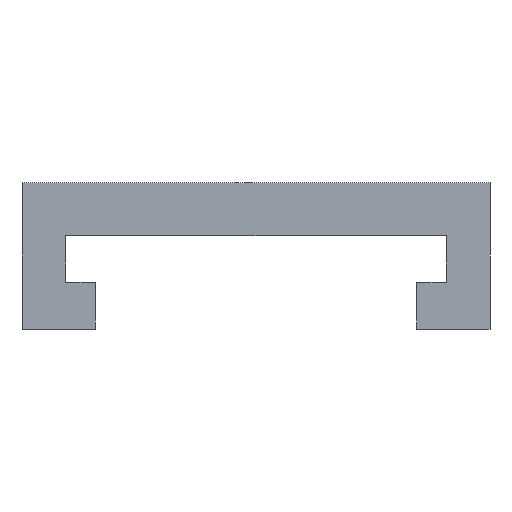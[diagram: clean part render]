
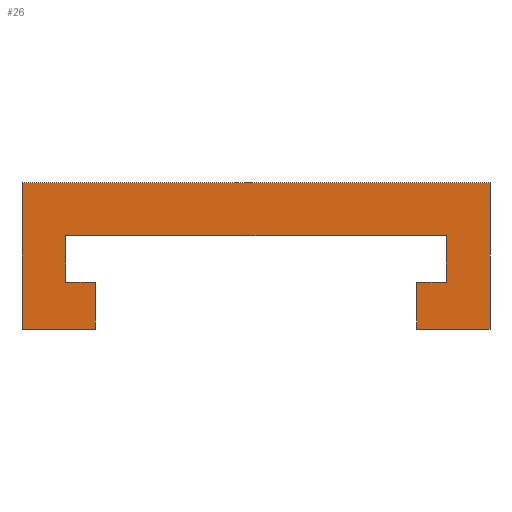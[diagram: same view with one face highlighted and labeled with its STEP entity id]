
A CAD part, front view. The second image highlights one B-rep face of the part: STEP entity #26.
In plain terms, the highlighted planar face has unit normal (0, -1, 0).
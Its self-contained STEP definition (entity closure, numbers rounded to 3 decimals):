
#2 = CARTESIAN_POINT ( 'NONE',  ( -32.5, 0., 3.5 ) ) ;
#7 = CARTESIAN_POINT ( 'NONE',  ( 40., 0., -12.5 ) ) ;
#13 = CARTESIAN_POINT ( 'NONE',  ( 27.5, 0., -4.5 ) ) ;
#19 = EDGE_LOOP ( 'NONE', ( #280, #189, #343, #109, #238, #394, #25, #435, #182, #262, #321, #138 ) ) ;
#22 = CARTESIAN_POINT ( 'NONE',  ( 40., 0., -12.5 ) ) ;
#25 = ORIENTED_EDGE ( 'NONE', *, *, #60, .F. ) ;
#26 = ADVANCED_FACE ( 'NONE', ( #444 ), #404, .F. ) ;
#30 = CARTESIAN_POINT ( 'NONE',  ( -27.5, 0., -4.5 ) ) ;
#33 = DIRECTION ( 'NONE',  ( 0., 0., 1. ) ) ;
#36 = LINE ( 'NONE', #181, #195 ) ;
#43 = CARTESIAN_POINT ( 'NONE',  ( 32.5, 0., -4.5 ) ) ;
#44 = LINE ( 'NONE', #230, #50 ) ;
#47 = DIRECTION ( 'NONE',  ( -1., 0., 0. ) ) ;
#50 = VECTOR ( 'NONE', #47, 1000. ) ;
#60 = EDGE_CURVE ( 'NONE', #184, #167, #327, .T. ) ;
#64 = DIRECTION ( 'NONE',  ( -1., 0., 0. ) ) ;
#68 = EDGE_CURVE ( 'NONE', #126, #368, #44, .T. ) ;
#69 = VERTEX_POINT ( 'NONE', #192 ) ;
#72 = CARTESIAN_POINT ( 'NONE',  ( -40., 0., -12.5 ) ) ;
#86 = DIRECTION ( 'NONE',  ( 0., 0., 1. ) ) ;
#96 = CARTESIAN_POINT ( 'NONE',  ( -40., 0., 12.5 ) ) ;
#102 = CARTESIAN_POINT ( 'NONE',  ( 40., 0., 12.5 ) ) ;
#103 = EDGE_CURVE ( 'NONE', #196, #430, #416, .T. ) ;
#104 = VECTOR ( 'NONE', #306, 1000. ) ;
#109 = ORIENTED_EDGE ( 'NONE', *, *, #214, .F. ) ;
#114 = VERTEX_POINT ( 'NONE', #173 ) ;
#119 = LINE ( 'NONE', #360, #356 ) ;
#126 = VERTEX_POINT ( 'NONE', #30 ) ;
#134 = VERTEX_POINT ( 'NONE', #102 ) ;
#138 = ORIENTED_EDGE ( 'NONE', *, *, #315, .T. ) ;
#150 = CARTESIAN_POINT ( 'NONE',  ( 32.5, 0., 3.5 ) ) ;
#152 = DIRECTION ( 'NONE',  ( 1., 0., 0. ) ) ;
#167 = VERTEX_POINT ( 'NONE', #253 ) ;
#171 = EDGE_CURVE ( 'NONE', #454, #430, #389, .T. ) ;
#172 = DIRECTION ( 'NONE',  ( 0., 0., -1. ) ) ;
#173 = CARTESIAN_POINT ( 'NONE',  ( -40., 0., 12.5 ) ) ;
#181 = CARTESIAN_POINT ( 'NONE',  ( -40., 0., -12.5 ) ) ;
#182 = ORIENTED_EDGE ( 'NONE', *, *, #68, .T. ) ;
#183 = CARTESIAN_POINT ( 'NONE',  ( -32.5, 0., 3.5 ) ) ;
#184 = VERTEX_POINT ( 'NONE', #410 ) ;
#188 = LINE ( 'NONE', #150, #393 ) ;
#189 = ORIENTED_EDGE ( 'NONE', *, *, #103, .T. ) ;
#192 = CARTESIAN_POINT ( 'NONE',  ( 32.5, 0., 3.5 ) ) ;
#195 = VECTOR ( 'NONE', #296, 1000. ) ;
#196 = VERTEX_POINT ( 'NONE', #13 ) ;
#214 = EDGE_CURVE ( 'NONE', #134, #454, #347, .T. ) ;
#217 = DIRECTION ( 'NONE',  ( 0., 0., -1. ) ) ;
#228 = LINE ( 'NONE', #183, #300 ) ;
#230 = CARTESIAN_POINT ( 'NONE',  ( -27.5, 0., -4.5 ) ) ;
#231 = CARTESIAN_POINT ( 'NONE',  ( 32.5, 0., -4.5 ) ) ;
#235 = LINE ( 'NONE', #96, #355 ) ;
#237 = CARTESIAN_POINT ( 'NONE',  ( 27.5, 0., -4.5 ) ) ;
#238 = ORIENTED_EDGE ( 'NONE', *, *, #370, .F. ) ;
#246 = VECTOR ( 'NONE', #440, 1000. ) ;
#247 = VERTEX_POINT ( 'NONE', #2 ) ;
#251 = EDGE_CURVE ( 'NONE', #247, #69, #228, .T. ) ;
#253 = CARTESIAN_POINT ( 'NONE',  ( -40., 0., -12.5 ) ) ;
#262 = ORIENTED_EDGE ( 'NONE', *, *, #328, .T. ) ;
#263 = CARTESIAN_POINT ( 'NONE',  ( -32.5, 0., -4.5 ) ) ;
#265 = VECTOR ( 'NONE', #172, 1000. ) ;
#268 = EDGE_CURVE ( 'NONE', #184, #126, #119, .T. ) ;
#271 = DIRECTION ( 'NONE',  ( 0., 0., 1. ) ) ;
#280 = ORIENTED_EDGE ( 'NONE', *, *, #412, .T. ) ;
#293 = VERTEX_POINT ( 'NONE', #43 ) ;
#296 = DIRECTION ( 'NONE',  ( 0., 0., 1. ) ) ;
#300 = VECTOR ( 'NONE', #152, 1000. ) ;
#302 = CARTESIAN_POINT ( 'NONE',  ( -40., 0., -12.5 ) ) ;
#306 = DIRECTION ( 'NONE',  ( -1., 0., 0. ) ) ;
#313 = VECTOR ( 'NONE', #86, 1000. ) ;
#315 = EDGE_CURVE ( 'NONE', #69, #293, #188, .T. ) ;
#320 = EDGE_CURVE ( 'NONE', #167, #114, #36, .T. ) ;
#321 = ORIENTED_EDGE ( 'NONE', *, *, #251, .T. ) ;
#327 = LINE ( 'NONE', #302, #246 ) ;
#328 = EDGE_CURVE ( 'NONE', #368, #247, #403, .T. ) ;
#333 = CARTESIAN_POINT ( 'NONE',  ( 27.5, 0., -12.5 ) ) ;
#340 = LINE ( 'NONE', #231, #104 ) ;
#341 = VECTOR ( 'NONE', #452, 1000. ) ;
#343 = ORIENTED_EDGE ( 'NONE', *, *, #171, .F. ) ;
#347 = LINE ( 'NONE', #22, #265 ) ;
#355 = VECTOR ( 'NONE', #406, 1000. ) ;
#356 = VECTOR ( 'NONE', #33, 1000. ) ;
#360 = CARTESIAN_POINT ( 'NONE',  ( -27.5, 0., -12.5 ) ) ;
#367 = CARTESIAN_POINT ( 'NONE',  ( -32.5, 0., -4.5 ) ) ;
#368 = VERTEX_POINT ( 'NONE', #263 ) ;
#370 = EDGE_CURVE ( 'NONE', #114, #134, #235, .T. ) ;
#389 = LINE ( 'NONE', #72, #438 ) ;
#393 = VECTOR ( 'NONE', #217, 1000. ) ;
#394 = ORIENTED_EDGE ( 'NONE', *, *, #320, .F. ) ;
#399 = DIRECTION ( 'NONE',  ( 0., 1., 0. ) ) ;
#403 = LINE ( 'NONE', #367, #313 ) ;
#404 = PLANE ( 'NONE',  #429 ) ;
#406 = DIRECTION ( 'NONE',  ( 1., 0., 0. ) ) ;
#410 = CARTESIAN_POINT ( 'NONE',  ( -27.5, 0., -12.5 ) ) ;
#412 = EDGE_CURVE ( 'NONE', #293, #196, #340, .T. ) ;
#416 = LINE ( 'NONE', #237, #341 ) ;
#429 = AXIS2_PLACEMENT_3D ( 'NONE', #442, #399, #271 ) ;
#430 = VERTEX_POINT ( 'NONE', #333 ) ;
#435 = ORIENTED_EDGE ( 'NONE', *, *, #268, .T. ) ;
#438 = VECTOR ( 'NONE', #64, 1000. ) ;
#440 = DIRECTION ( 'NONE',  ( -1., 0., 0. ) ) ;
#442 = CARTESIAN_POINT ( 'NONE',  ( 0., 0., 0. ) ) ;
#444 = FACE_OUTER_BOUND ( 'NONE', #19, .T. ) ;
#452 = DIRECTION ( 'NONE',  ( 0., 0., -1. ) ) ;
#454 = VERTEX_POINT ( 'NONE', #7 ) ;
